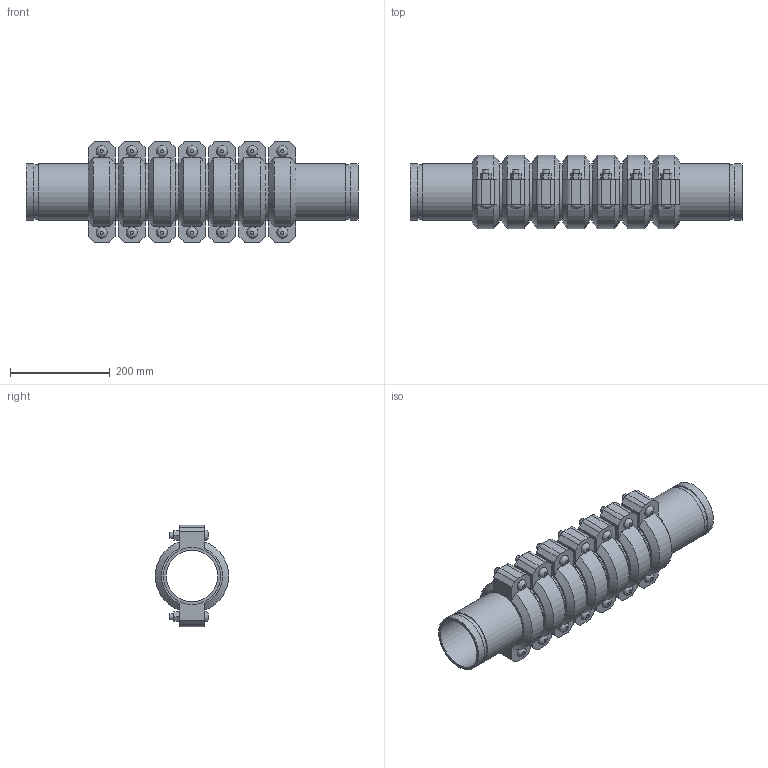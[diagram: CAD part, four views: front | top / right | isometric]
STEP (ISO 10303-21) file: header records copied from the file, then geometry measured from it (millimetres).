
FILE_DESCRIPTION(/* description */ ('VIC EXPANSION JOINT 7 COUPLINGS COMPRESSED STYLE 155 (OGS)','CAx-IF Rec.Pracs.---Representation and Presentation of Product Manufacturing Information (PMI)---4.0---2014-10-13'),/* implementation_level */ '2;1');
FILE_NAME(/* name */ 'C:\Users\kkamble\AppData\Roaming\Autodesk\ApplicationPlugins\Victaulic.Temp\A262\Victaulic_IPS_Expansion Joint_Compressed_7 Couplings_Style 155 (OGS)_4 (100).stp',/* time_stamp */ '2021-06-27T00:34:01+02:00',/* author */ ('kkamble'),/* organization */ ('Victaulic'),/* preprocessor_version */ 'ST-DEVELOPER v17.2',/* originating_system */ 'Autodesk Inventor 2019',/* authorisation */ '');
FILE_SCHEMA (('AP242_MANAGED_MODEL_BASED_3D_ENGINEERING_MIM_LF { 1 0 10303 442 1 1 4 }'));
Length unit declared in the file: inch
Products named in the file (4): 155-04.0; Nipple-04.0; Nipple-04.0_1; 075_7_Coup-04.0
Assembly tree (15 placements, depth 2):
  155-04.0
    Nipple-04.0  x2
    Nipple-04.0_1  x6
    075_7_Coup-04.0  x7
Bounding box: 666.75 x 147.32 x 203.96 mm (x, y, z)
Volume: 4421453.4 mm3; surface area: 1051307.7 mm2
Topology: 15 solids, 29 shells, 495 faces, 1171 edges, 822 vertices
Faces by surface type: plane 300, cylinder 153, cone 28, bspline 14
Full cylindrical faces by diameter (mm): 12.7 x28, 14.605 x14, 103.988 x8, 107.95 x7, 110.084 x16, 114.3 x38
Entity records: 2842 total; most frequent: CARTESIAN_POINT 499, DIRECTION 473, ORIENTED_EDGE 386, EDGE_CURVE 193, AXIS2_PLACEMENT_3D 190, VERTEX_POINT 138, EDGE_LOOP 107, LINE 93
